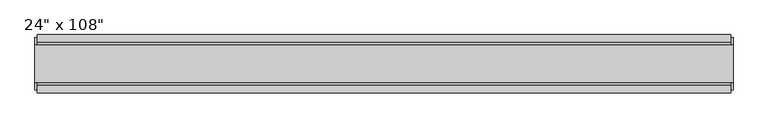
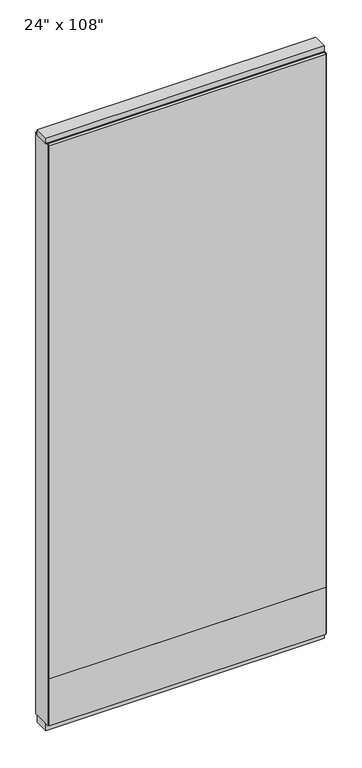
"""IFC4 building model written with IfcOpenShell, lengths in millimetres: furniture geometry."""

from ifc_helpers import new_model, si_unit, frame, origin, origin_with_axes, place, context, project, spatial, polyline, outline, extrude, source, transform, mapped, element, save


def furniture_ffbbdd7f(model_context):
    return source(origin(), model_context, "Body", "SweptSolid", [
        extrude(outline(polyline([(545.6264771, -46.2822784), (-665.6995229, -46.2822784), (-665.6995229, -33.5822784), (545.6264771, -33.5822784), (545.6264771, -46.2822784)])), frame((0.0, 0.0, 249.936), z_axis=(0.0, 0.0, 1.0), x_axis=(1.0, 0.0, 0.0)), (0.0, 0.0, 1.0), 2467.864),
        extrude(outline(polyline([(545.6264771, 55.3177216), (545.6264771, 42.6177216), (-665.6995229, 42.6177216), (-665.6995229, 55.3177216), (545.6264771, 55.3177216)])), frame((0.0, 0.0, 249.936), z_axis=(0.0, 0.0, 1.0), x_axis=(1.0, 0.0, 0.0)), (0.0, 0.0, 1.0), 2467.864),
        extrude(outline(polyline([(545.6264771, -46.2822784), (-665.6995229, -46.2822784), (-665.6995229, -33.5822784), (545.6264771, -33.5822784), (545.6264771, -46.2822784)])), frame((0.0, 0.0, 31.75), z_axis=(0.0, 0.0, 1.0), x_axis=(1.0, 0.0, 0.0)), (0.0, 0.0, 1.0), 218.186),
        extrude(outline(polyline([(545.6264771, 55.3177216), (545.6264771, 42.6177216), (-665.6995229, 42.6177216), (-665.6995229, 55.3177216), (545.6264771, 55.3177216)])), frame((0.0, 0.0, 31.75), z_axis=(0.0, 0.0, 1.0), x_axis=(1.0, 0.0, 0.0)), (0.0, 0.0, 1.0), 218.186),
        extrude(outline(polyline([(42.6177216, 2681.478), (37.6647216, 2681.478), (37.6647216, 2676.525), (-28.6292784, 2676.525), (-28.6292784, 2681.478), (-33.5822784, 2681.478), (-33.5822784, 2717.8), (42.6177216, 2717.8), (42.6177216, 2681.478)])), frame((-665.6995229, 0.0, 0.0), z_axis=(1.0, 0.0, 0.0), x_axis=(0.0, 1.0, 0.0)), (0.0, 0.0, 1.0), 1211.326),
        extrude(outline(polyline([(549.5634771, -27.9942784), (-669.6365229, -27.9942784), (-669.6365229, 37.0297216), (549.5634771, 37.0297216), (549.5634771, -27.9942784)])), origin_with_axes(), (0.0, 0.0, 1.0), 31.75),
        extrude(outline(polyline([(-669.6365229, 37.0297216), (549.5634771, 37.0297216), (549.5634771, -27.9942784), (-669.6365229, -27.9942784), (-669.6365229, 37.0297216)])), frame((0.0, 0.0, 2717.8), z_axis=(0.0, 0.0, 1.0), x_axis=(1.0, 0.0, 0.0)), (0.0, 0.0, 1.0), 25.4),
        extrude(outline(polyline([(549.5634771, 50.3647216), (549.5634771, -41.3292784), (545.6264771, -41.3292784), (545.6264771, 50.3647216), (549.5634771, 50.3647216)])), frame((0.0, 0.0, 31.75), z_axis=(0.0, 0.0, 1.0), x_axis=(1.0, 0.0, 0.0)), (0.0, 0.0, 1.0), 2686.05),
        extrude(outline(polyline([(-669.6365229, 50.3647216), (-665.6995229, 50.3647216), (-665.6995229, -41.3292784), (-669.6365229, -41.3292784), (-669.6365229, 50.3647216)])), frame((0.0, 0.0, 31.75), z_axis=(0.0, 0.0, 1.0), x_axis=(1.0, 0.0, 0.0)), (0.0, 0.0, 1.0), 2686.05),
    ])


if __name__ == "__main__":
    model = new_model("IFC4")
    model_context = context("Model", 3, world=origin())
    ifc_project = project(units=[si_unit("LENGTHUNIT", "METRE", prefix="MILLI")], contexts=[model_context])
    site = spatial("IfcSite", under=ifc_project)
    building = spatial("IfcBuilding", under=site)
    placement = place(None, origin())
    furniture_shape = furniture_ffbbdd7f(model_context)
    element("IfcFurniture", 1, ObjectType="Haworth_Enclose-Wall-Solid : 24\" x 108\"", at=placement, inside=building, context=model_context, shape_type="MappedRepresentation", body=[
        mapped(furniture_shape, transform((0.0, 0.0, 0.0), x_axis=(1.0, 0.0, 0.0), y_axis=(0.0, 1.0, 0.0), z_axis=(0.0, 0.0, 1.0))),
    ])
    save(model, "model.ifc")
